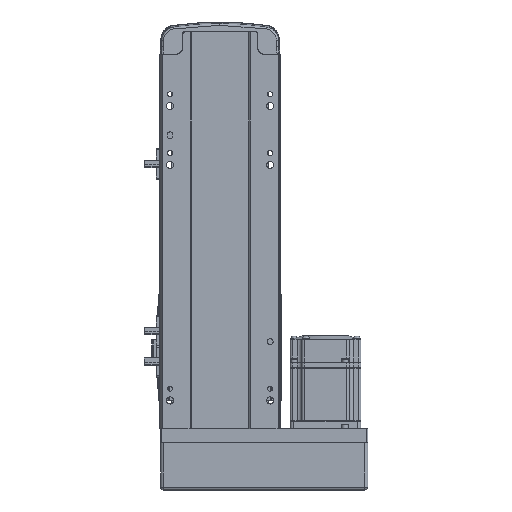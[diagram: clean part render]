
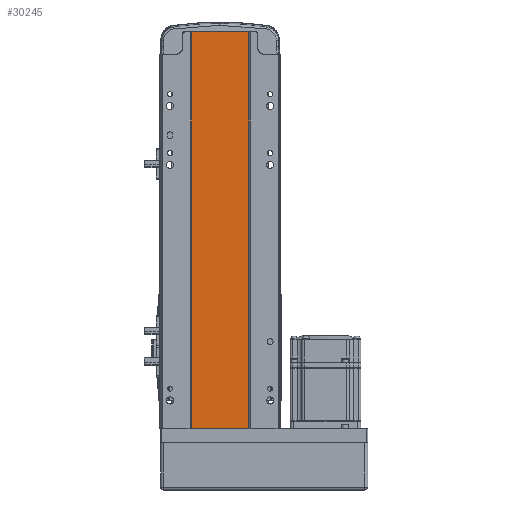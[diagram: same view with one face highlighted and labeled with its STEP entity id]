
A CAD part, front view. The second image highlights one B-rep face of the part: STEP entity #30245.
In plain terms, the highlighted planar face has unit normal (0, -1, 0).
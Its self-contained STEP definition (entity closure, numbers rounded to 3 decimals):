
#117 = EDGE_CURVE ( 'NONE', #57175, #8762, #56248, .T. ) ;
#410 = EDGE_CURVE ( 'NONE', #35176, #931, #23815, .T. ) ;
#931 = VERTEX_POINT ( 'NONE', #53711 ) ;
#6708 = DIRECTION ( 'NONE',  ( 0., 0., -1. ) ) ;
#8762 = VERTEX_POINT ( 'NONE', #25038 ) ;
#9546 = DIRECTION ( 'NONE',  ( 1., 0., 0. ) ) ;
#9788 = DIRECTION ( 'NONE',  ( 0., 1., 0. ) ) ;
#10188 = EDGE_CURVE ( 'NONE', #931, #8762, #43972, .T. ) ;
#13290 = VECTOR ( 'NONE', #6708, 1000. ) ;
#13539 = EDGE_CURVE ( 'NONE', #35176, #57175, #15442, .T. ) ;
#15442 = LINE ( 'NONE', #17921, #58368 ) ;
#17921 = CARTESIAN_POINT ( 'NONE',  ( -24.5, 2., 337. ) ) ;
#23815 = LINE ( 'NONE', #36698, #13290 ) ;
#24990 = ORIENTED_EDGE ( 'NONE', *, *, #13539, .F. ) ;
#25038 = CARTESIAN_POINT ( 'NONE',  ( 24.5, 2., 0. ) ) ;
#25284 = VECTOR ( 'NONE', #39455, 1000. ) ;
#25870 = CARTESIAN_POINT ( 'NONE',  ( 24.5, 2., 337. ) ) ;
#28278 = CARTESIAN_POINT ( 'NONE',  ( 24.5, 2., 337. ) ) ;
#30167 = FACE_OUTER_BOUND ( 'NONE', #51797, .T. ) ;
#30245 = ADVANCED_FACE ( 'NONE', ( #30167 ), #36728, .F. ) ;
#32050 = VECTOR ( 'NONE', #9546, 1000. ) ;
#33872 = AXIS2_PLACEMENT_3D ( 'NONE', #50644, #9788, #41236 ) ;
#35176 = VERTEX_POINT ( 'NONE', #48759 ) ;
#35732 = ORIENTED_EDGE ( 'NONE', *, *, #410, .T. ) ;
#36698 = CARTESIAN_POINT ( 'NONE',  ( -24.5, 2., 337. ) ) ;
#36728 = PLANE ( 'NONE',  #33872 ) ;
#37397 = DIRECTION ( 'NONE',  ( 1., 0., 0. ) ) ;
#38929 = ORIENTED_EDGE ( 'NONE', *, *, #10188, .T. ) ;
#39455 = DIRECTION ( 'NONE',  ( 0., 0., -1. ) ) ;
#41236 = DIRECTION ( 'NONE',  ( 0., 0., 1. ) ) ;
#43972 = LINE ( 'NONE', #50605, #32050 ) ;
#48759 = CARTESIAN_POINT ( 'NONE',  ( -24.5, 2., 337. ) ) ;
#50605 = CARTESIAN_POINT ( 'NONE',  ( 0., 2., 0. ) ) ;
#50644 = CARTESIAN_POINT ( 'NONE',  ( 0., 2., 337. ) ) ;
#51797 = EDGE_LOOP ( 'NONE', ( #38929, #55043, #24990, #35732 ) ) ;
#53711 = CARTESIAN_POINT ( 'NONE',  ( -24.5, 2., 0. ) ) ;
#55043 = ORIENTED_EDGE ( 'NONE', *, *, #117, .F. ) ;
#56248 = LINE ( 'NONE', #25870, #25284 ) ;
#57175 = VERTEX_POINT ( 'NONE', #28278 ) ;
#58368 = VECTOR ( 'NONE', #37397, 1000. ) ;
